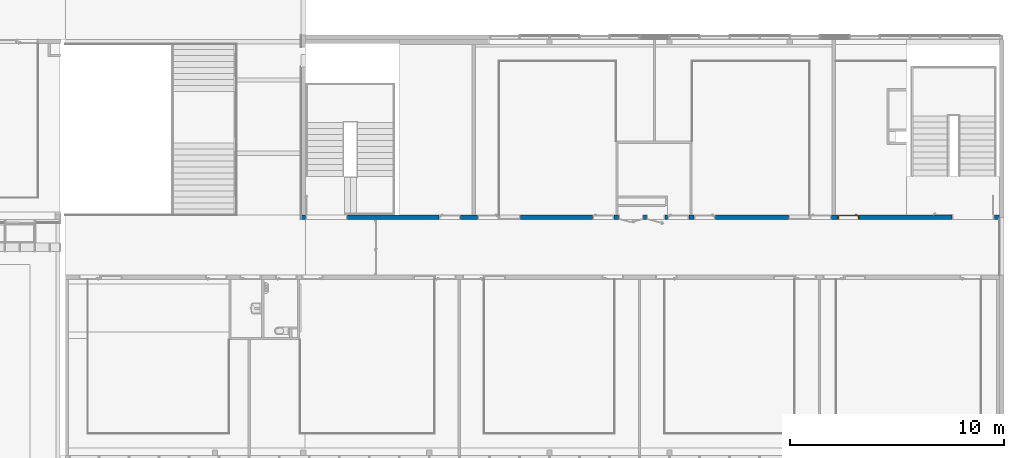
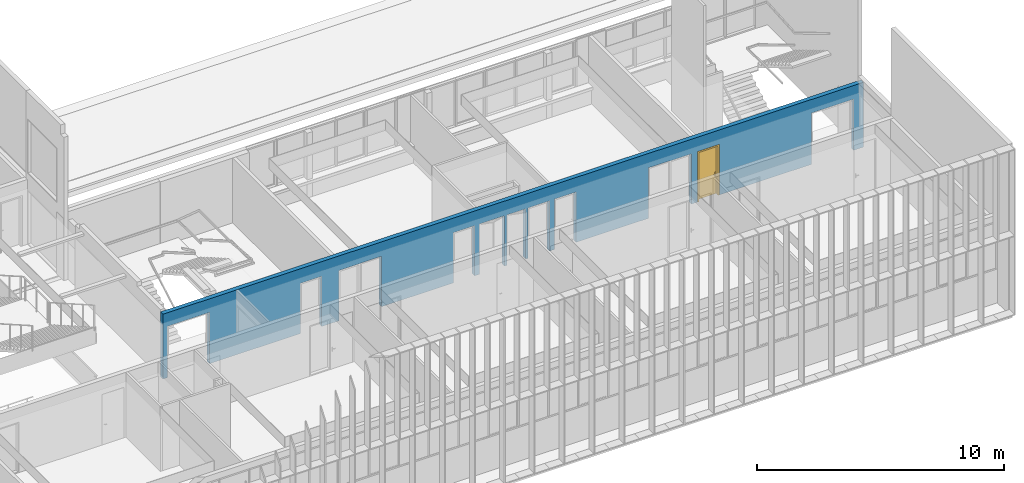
# One storey, part 80 of 106: 1 door, 1 wall, 13 openings.
"""IFC2X3 building model written with IfcOpenShell, lengths in centimetres."""

from ifc_helpers import new_model, entity, si_unit, converted_unit, derived_unit, direction, frame, frame_2d, origin, place, context, subcontext, project, spatial, polyline, rectangle, extrude, clip, bounded_halfspace, faceted_brep, source, transform, mapped, material, material_list, layer, layer_set, layer_usage, type_object, type_shapes, element, fill, save


model = new_model("IFC2X3")

# Units and contexts
model_context = context("Model", 3, precision=0.001, world=origin(), true_north=direction((6.12303176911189e-17, 1.0)))
body_context = subcontext(model_context, "Body", "Model", "MODEL_VIEW")
ifc_project = project(units=[si_unit("LENGTHUNIT", "METRE", prefix="CENTI"), si_unit("AREAUNIT", "SQUARE_METRE"), si_unit("VOLUMEUNIT", "CUBIC_METRE"), converted_unit("PLANEANGLEUNIT", "DEGREE", entity("IfcRatioMeasure", 0.0174532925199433), si_unit("PLANEANGLEUNIT", "RADIAN"), dimensions=[0, 0, 0, 0, 0, 0, 0]), si_unit("MASSUNIT", "GRAM", prefix="KILO"), derived_unit("MASSDENSITYUNIT", [(si_unit("MASSUNIT", "GRAM", prefix="KILO"), 1), (si_unit("LENGTHUNIT", "METRE"), -3)]), si_unit("TIMEUNIT", "SECOND"), si_unit("FREQUENCYUNIT", "HERTZ"), si_unit("THERMODYNAMICTEMPERATUREUNIT", "DEGREE_CELSIUS"), derived_unit("THERMALTRANSMITTANCEUNIT", [(si_unit("MASSUNIT", "GRAM", prefix="KILO"), 1), (si_unit("THERMODYNAMICTEMPERATUREUNIT", "KELVIN"), -1), (si_unit("TIMEUNIT", "SECOND"), -3)]), derived_unit("VOLUMETRICFLOWRATEUNIT", [(si_unit("LENGTHUNIT", "METRE"), 3), (si_unit("TIMEUNIT", "SECOND"), -1)]), si_unit("ELECTRICCURRENTUNIT", "AMPERE"), si_unit("ELECTRICVOLTAGEUNIT", "VOLT"), si_unit("POWERUNIT", "WATT"), si_unit("FORCEUNIT", "NEWTON", prefix="KILO"), si_unit("ILLUMINANCEUNIT", "LUX"), si_unit("LUMINOUSFLUXUNIT", "LUMEN"), si_unit("LUMINOUSINTENSITYUNIT", "CANDELA"), derived_unit("USERDEFINED", [(si_unit("MASSUNIT", "GRAM", prefix="KILO"), -1), (si_unit("LENGTHUNIT", "METRE"), -2), (si_unit("TIMEUNIT", "SECOND"), 3), (si_unit("LUMINOUSFLUXUNIT", "LUMEN"), 1)]), derived_unit("LINEARVELOCITYUNIT", [(si_unit("LENGTHUNIT", "METRE"), 1), (si_unit("TIMEUNIT", "SECOND"), -1)]), si_unit("PRESSUREUNIT", "PASCAL"), derived_unit("USERDEFINED", [(si_unit("LENGTHUNIT", "METRE"), -2), (si_unit("MASSUNIT", "GRAM", prefix="KILO"), 1), (si_unit("TIMEUNIT", "SECOND"), -2)])], contexts=[model_context])

# Site, building, storey
site_placement = place(None, frame((-2781.94577612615, 7442.24238424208, 0.0)))
site = spatial("IfcSite", under=ifc_project, at=site_placement, Name="Default", CompositionType="ELEMENT")
building_placement = place(site_placement, origin())
building = spatial("IfcBuilding", under=site, at=building_placement, CompositionType="ELEMENT")
storey_placement = place(building_placement, frame((0.0, 0.0, 422.0)))
storey = spatial("IfcBuildingStorey", under=building, at=storey_placement, Name="Toiture - Cuisine", CompositionType="ELEMENT", Elevation=421.999999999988)

# Wall, openings, door
ifc_material_1 = material(Name="01 - Maçonnerie")
ifc_layer = layer(ifc_material_1, 20.0)
ifc_layer_set = layer_set([ifc_layer], Name="Mur de base:04 - Structure - béton - 20cm")
ifc_layer_usage = layer_usage(ifc_layer_set, "AXIS2", "NEGATIVE", 10.0)
wall_type = type_object("IfcWallType", Name="Mur de base:04 - Structure - béton - 20cm", PredefinedType="STANDARD", material=ifc_layer_set)
wall_placement = place(building_placement, frame((-3667.99987968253, -1920.07903364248, 422.0)))
wall = element("IfcWallStandardCase", 1, at=wall_placement, inside=storey, type_object=wall_type, material=ifc_layer_usage, Name="Mur de base:04 - Structure - béton - 20cm", ObjectType="Mur de base:04 - Structure - béton - 20cm", context=body_context, shape_type="Clipping", body=[
    clip(clip(extrude(rectangle(XDim=3277.99999684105, YDim=19.9999999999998, at=frame_2d((1638.99999842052, 6.21724893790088e-14), x_axis=(-1.0, 0.0))), origin(), (0.0, 0.0, 1.0), 321.0), bounded_halfspace(frame((0.0, -10.0, 321.0), z_axis=(0.0, 0.0, -1.0), x_axis=(0.0, 1.0, 0.0)), True, frame((0.0, -10.0, 321.0)), polyline([(0.0, 0.0), (20.0, 0.0), (20.0, 20.0), (0.0, 20.0), (0.0, 0.0)]))), bounded_halfspace(frame((458.699996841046, -10.0, 321.0), z_axis=(0.0, 0.0, -1.0), x_axis=(0.0, 1.0, 0.0)), True, frame((458.699996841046, -10.0, 321.0)), polyline([(0.0, 0.0), (2797.3, 0.0), (2799.29999999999, 0.0), (2799.29999999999, 10.0), (2799.29999999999, 20.0), (2034.0, 20.0), (2018.0, 20.0), (1914.0, 20.0), (1912.0, 20.0), (1363.8, 20.0), (1353.8, 20.0), (1249.8, 20.0), (1239.8, 20.0), (1149.8, 20.0), (1139.8, 20.0), (1019.8, 20.0), (1009.8, 20.0), (466.0, 20.0), (464.0, 20.0), (0.0, 20.0), (0.0, 0.0)]))),
])
opening_1_placement = place(wall_placement, frame((2502.69999684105, -10.0, 0.0)))
opening_1 = element("IfcOpeningElement", 2, at=opening_1_placement, cuts=wall, Name="Int. Simple:PP simple (0.93m x 2.50m):1", ObjectType="Opening", context=body_context, shape_type="SweptSolid", body=[
    extrude(rectangle(XDim=248.500000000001, YDim=99.9999999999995, at=frame_2d((124.250000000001, 49.9999999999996), x_axis=(1.0, 0.0))), frame((0.0, 0.0, 0.0), z_axis=(0.0, 1.0, 0.0), x_axis=(0.0, 0.0, 1.0)), (0.0, 0.0, 1.0), 20.0),
])
opening_2_placement = place(wall_placement, frame((2372.69999684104, -10.0, 0.0)))
element("IfcOpeningElement", 3, at=opening_2_placement, cuts=wall, Name="Int. Simple:PV (0.93m x 2.50m):1", ObjectType="Opening", context=body_context, shape_type="SweptSolid", body=[
    extrude(rectangle(XDim=248.500000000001, YDim=99.9999999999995, at=frame_2d((124.250000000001, 49.9999999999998), x_axis=(1.0, 0.0))), frame((0.0, 0.0, 0.0), z_axis=(0.0, 1.0, 0.0), x_axis=(0.0, 0.0, 1.0)), (0.0, 0.0, 1.0), 20.0),
])
opening_3_placement = place(wall_placement, frame((1832.49999684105, -10.0, 0.0)))
element("IfcOpeningElement", 4, at=opening_3_placement, cuts=wall, Name="Int. Simple:PV (0.93m x 2.50m):1", ObjectType="Opening", context=body_context, shape_type="SweptSolid", body=[
    extrude(rectangle(XDim=248.500000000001, YDim=99.9999999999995, at=frame_2d((124.250000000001, 49.9999999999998), x_axis=(1.0, 0.0))), frame((0.0, 0.0, 0.0), z_axis=(0.0, 1.0, 0.0), x_axis=(0.0, 0.0, 1.0)), (0.0, 0.0, 1.0), 20.0),
])
opening_4_placement = place(wall_placement, frame((1708.49999684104, -10.0, 0.0)))
element("IfcOpeningElement", 5, at=opening_4_placement, cuts=wall, Name="Int. Simple:PP simple (0.93m x 2.50m):1", ObjectType="Opening", context=body_context, shape_type="SweptSolid", body=[
    extrude(rectangle(XDim=248.500000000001, YDim=99.9999999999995, at=frame_2d((124.250000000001, 49.9999999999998), x_axis=(1.0, 0.0))), frame((0.0, 0.0, 0.0), z_axis=(0.0, 1.0, 0.0), x_axis=(0.0, 0.0, 1.0)), (0.0, 0.0, 1.0), 20.0),
])
opening_5_placement = place(wall_placement, frame((1358.49999684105, -10.0, 0.0)))
element("IfcOpeningElement", 6, at=opening_5_placement, cuts=wall, Name="Int. Simple:PV (0.93m x 2.50m):1", ObjectType="Opening", context=body_context, shape_type="SweptSolid", body=[
    extrude(rectangle(XDim=248.500000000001, YDim=99.9999999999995, at=frame_2d((124.250000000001, 49.9999999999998), x_axis=(1.0, 0.0))), frame((0.0, 0.0, 0.0), z_axis=(0.0, 1.0, 0.0), x_axis=(0.0, 0.0, 1.0)), (0.0, 0.0, 1.0), 20.0),
])
opening_6_placement = place(wall_placement, frame((822.699996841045, -10.0, 0.0)))
element("IfcOpeningElement", 7, at=opening_6_placement, cuts=wall, Name="Int. Simple:PV (0.93m x 2.50m):1", ObjectType="Opening", context=body_context, shape_type="SweptSolid", body=[
    extrude(rectangle(XDim=248.500000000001, YDim=99.9999999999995, at=frame_2d((124.250000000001, 49.9999999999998), x_axis=(1.0, 0.0))), frame((0.0, 0.0, 0.0), z_axis=(0.0, 1.0, 0.0), x_axis=(0.0, 0.0, 1.0)), (0.0, 0.0, 1.0), 20.0),
])
opening_7_placement = place(wall_placement, frame((642.699996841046, -10.0, 0.0)))
element("IfcOpeningElement", 8, at=opening_7_placement, cuts=wall, Name="Int. Simple:PP simple (0.93m x 2.50m):1", ObjectType="Opening", context=body_context, shape_type="SweptSolid", body=[
    extrude(rectangle(XDim=248.500000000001, YDim=99.9999999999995, at=frame_2d((124.250000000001, 49.9999999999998), x_axis=(1.0, 0.0))), frame((0.0, 0.0, 0.0), z_axis=(0.0, 1.0, 0.0), x_axis=(0.0, 0.0, 1.0)), (0.0, 0.0, 1.0), 20.0),
])
opening_8_placement = place(wall_placement, frame((2272.69999684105, -10.0, 0.0)))
element("IfcOpeningElement", 9, at=opening_8_placement, cuts=wall, Name="châssis intérieur vitré:châssis intérieur vitré (h=270) R+1:1", ObjectType="Opening", context=body_context, shape_type="SweptSolid", body=[
    extrude(rectangle(XDim=250.0, YDim=99.9999999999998, at=frame_2d((125.0, 49.9999999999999), x_axis=(1.0, 0.0))), frame((0.0, 0.0, 0.0), z_axis=(0.0, 1.0, 0.0), x_axis=(0.0, 0.0, 1.0)), (0.0, 0.0, 1.0), 20.0),
])
opening_9_placement = place(wall_placement, frame((922.699996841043, -10.0, 0.0)))
element("IfcOpeningElement", 10, at=opening_9_placement, cuts=wall, Name="châssis intérieur vitré:châssis intérieur vitré (h=270) R+1:1", ObjectType="Opening", context=body_context, shape_type="SweptSolid", body=[
    extrude(rectangle(XDim=250.0, YDim=99.9999999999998, at=frame_2d((125.0, 49.9999999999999), x_axis=(1.0, 0.0))), frame((0.0, 0.0, 0.0), z_axis=(0.0, 1.0, 0.0), x_axis=(0.0, 0.0, 1.0)), (0.0, 0.0, 1.0), 20.0),
])
opening_10_placement = place(wall_placement, frame((1697.0, 10.0, 0.0)))
element("IfcOpeningElement", 11, at=opening_10_placement, cuts=wall, Name="Int. Simple:PP Placard (0.80m x 2.50m):1", ObjectType="Opening", context=body_context, shape_type="SweptSolid", body=[
    extrude(rectangle(XDim=248.500000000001, YDim=86.9999999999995, at=frame_2d((124.250000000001, 43.4999999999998), x_axis=(1.0, 0.0))), frame((0.0, 0.0, 0.0), z_axis=(0.0, -1.0, 0.0), x_axis=(0.0, 0.0, 1.0)), (0.0, 0.0, 1.0), 20.0),
])
opening_11_placement = place(wall_placement, frame((1597.0, 10.0, 0.0)))
element("IfcOpeningElement", 12, at=opening_11_placement, cuts=wall, Name="Int. Double:PP Placard (1.10m x 2.50m):1", ObjectType="Opening", context=body_context, shape_type="SweptSolid", body=[
    extrude(rectangle(XDim=248.500000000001, YDim=117.0, at=frame_2d((124.250000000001, 58.5000000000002), x_axis=(1.0, 0.0))), frame((0.0, 0.0, 0.0), z_axis=(0.0, -1.0, 0.0), x_axis=(0.0, 0.0, 1.0)), (0.0, 0.0, 1.0), 20.0),
])
opening_12_placement = place(wall_placement, frame((3035.69999684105, -10.0, 0.0)))
element("IfcOpeningElement", 13, at=opening_12_placement, cuts=wall, Name="Int. Double:PP (1.90m x 2.50m):1", ObjectType="Opening", context=body_context, shape_type="SweptSolid", body=[
    extrude(rectangle(XDim=253.500000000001, YDim=197.0, at=frame_2d((126.750000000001, 98.5000000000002), x_axis=(1.0, 0.0))), frame((0.0, 0.0, 0.0), z_axis=(0.0, 1.0, 0.0), x_axis=(0.0, 0.0, 1.0)), (0.0, 0.0, 1.0), 20.0),
])
opening_13_placement = place(wall_placement, frame((20.0, -10.0, 0.0)))
element("IfcOpeningElement", 14, at=opening_13_placement, cuts=wall, Name="Int. Double:PP (1.90m x 2.50m):1", ObjectType="Opening", context=body_context, shape_type="SweptSolid", body=[
    extrude(rectangle(XDim=253.500000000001, YDim=197.0, at=frame_2d((126.750000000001, 98.5), x_axis=(1.0, 0.0))), frame((0.0, 0.0, 0.0), z_axis=(0.0, 1.0, 0.0), x_axis=(0.0, 0.0, 1.0)), (0.0, 0.0, 1.0), 20.0),
])
ifc_material_2 = material(Name="Finition Peinture - Blanc satiné")
ifc_material_3 = material(Name="Bois - Panneau de porte")
ifc_material_4 = material(Name="Bois - Cadre de porte")
ifc_material_list_1 = material_list([ifc_material_2, ifc_material_3, ifc_material_4])
ifc_material_list_2 = material_list([ifc_material_2, ifc_material_3, ifc_material_4])
door_style = type_object("IfcDoorStyle", Name="PP simple (0.93m x 2.50m)", ConstructionType="NOTDEFINED", OperationType="SINGLE_SWING_LEFT", ParameterTakesPrecedence=False, Sizeable=False, material=ifc_material_list_2)
shared_shape = source(origin(), body_context, "Body", "Brep", [
    faceted_brep([(10.5352761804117, -0.500000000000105, 86.6003983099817), (11.5000000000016, -0.500000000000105, 87.0), (11.5000000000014, -0.500000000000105, 108.0), (10.5352761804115, -0.500000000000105, 108.399601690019), (9.50000000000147, -0.500000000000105, 108.535898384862), (8.46472381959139, -0.500000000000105, 108.399601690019), (7.50000000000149, -0.500000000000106, 108.0), (7.50000000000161, -0.500000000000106, 87.0), (8.46472381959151, -0.500000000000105, 86.6003983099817), (9.50000000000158, -0.500000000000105, 86.464101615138), (10.5352761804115, 0.0, 108.399601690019), (11.5000000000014, 0.0, 108.0), (11.5000000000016, 0.0, 87.0), (10.5352761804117, 0.0, 86.6003983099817), (9.50000000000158, 0.0, 86.464101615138), (8.46472381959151, 0.0, 86.6003983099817), (7.50000000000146, 0.0, 87.0), (7.50000000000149, 0.0, 108.0), (8.46472381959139, 0.0, 108.399601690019), (9.50000000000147, 0.0, 108.535898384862)], [[[0, 1, 2, 3, 4, 5, 6, 7, 8, 9]], [[10, 11, 12, 13, 14, 15, 16, 17, 18, 19]], [[16, 15, 8, 7]], [[8, 15, 14, 9]], [[14, 13, 0, 9]], [[13, 12, 1, 0]], [[2, 1, 12, 11]], [[11, 10, 3, 2]], [[3, 10, 19, 4]], [[19, 18, 5, 4]], [[18, 17, 6, 5]], [[7, 6, 17, 16]]]),
    faceted_brep([(10.5352761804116, 4.0, 86.6003983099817), (11.5000000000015, 4.0, 87.0), (11.5000000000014, 4.0, 108.0), (10.5352761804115, 4.0, 108.399601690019), (9.50000000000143, 4.0, 108.535898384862), (8.46472381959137, 4.0, 108.399601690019), (7.50000000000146, 4.0, 108.0), (7.50000000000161, 4.0, 87.0), (8.46472381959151, 4.0, 86.6003983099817), (9.50000000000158, 4.0, 86.464101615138), (10.5352761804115, 4.49999999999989, 108.399601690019), (11.5000000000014, 4.49999999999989, 108.0), (11.5000000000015, 4.49999999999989, 87.0), (10.5352761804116, 4.49999999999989, 86.6003983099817), (9.50000000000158, 4.49999999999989, 86.464101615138), (8.46472381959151, 4.49999999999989, 86.6003983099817), (7.50000000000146, 4.49999999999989, 87.0), (7.50000000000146, 4.49999999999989, 108.0), (8.46472381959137, 4.49999999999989, 108.399601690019), (9.50000000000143, 4.49999999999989, 108.535898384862)], [[[0, 1, 2, 3, 4, 5, 6, 7, 8, 9]], [[10, 11, 12, 13, 14, 15, 16, 17, 18, 19]], [[11, 10, 3, 2]], [[3, 10, 19, 4]], [[19, 18, 5, 4]], [[18, 17, 6, 5]], [[7, 6, 17, 16]], [[16, 15, 8, 7]], [[8, 15, 14, 9]], [[14, 13, 0, 9]], [[13, 12, 1, 0]], [[2, 1, 12, 11]]]),
    faceted_brep([(9.29747013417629, -0.500000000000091, 100.778044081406), (9.70252986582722, -0.500000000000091, 100.778044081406), (10.1000000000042, -0.500000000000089, 100.699999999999), (10.1000000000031, -0.500000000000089, 99.3000000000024), (9.7025298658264, -0.500000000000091, 99.2219559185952), (9.29747013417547, -0.500000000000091, 99.221955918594), (8.8999999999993, -0.500000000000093, 99.2999999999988), (8.89999999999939, -0.500000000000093, 100.7), (8.89999999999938, -3.26509507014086, 100.7), (9.29747013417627, -3.10045754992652, 100.778044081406), (10.9023585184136, -4.70534593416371, 100.778044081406), (11.0701397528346, -4.30028620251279, 100.778044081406), (9.7025298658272, -2.93267631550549, 100.778044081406), (10.1000000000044, -2.76803879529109, 100.7), (10.1000000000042, -2.76803879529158, 99.3000000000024), (9.7025298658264, -2.93267631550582, 99.2219559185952), (11.0701397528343, -4.30028620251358, 99.2219559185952), (10.9023585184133, -4.70534593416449, 99.221955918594), (9.29747013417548, -3.10045754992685, 99.221955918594), (8.89999999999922, -3.26509507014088, 99.2999999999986), (10.7377209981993, -5.10281606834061, 100.7), (11.2347772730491, -3.90281606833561, 100.7), (11.2347772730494, -3.90281606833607, 99.3000000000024), (10.7377209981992, -5.10281606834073, 99.2999999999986), (19.5018640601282, -5.1028160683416, 99.2999999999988), (19.5018640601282, -4.70534593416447, 99.221955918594), (19.5018640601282, -4.30028620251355, 99.2219559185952), (19.5018640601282, -3.90281606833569, 99.3000000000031), (19.5018640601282, -3.90281606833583, 100.7), (19.5018640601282, -4.30028620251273, 100.778044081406), (19.5018640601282, -4.70534593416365, 100.778044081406), (19.5018640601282, -5.10281606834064, 100.699999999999), (14.7307697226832, -5.10281606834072, 100.7), (15.2860019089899, -4.5028160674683, 100.78786867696), (15.3683206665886, -3.9028160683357, 100.7), (15.3683206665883, -3.90281606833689, 99.3000000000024), (15.2860018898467, -4.50281607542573, 99.2121313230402), (14.7307700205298, -5.10281606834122, 99.2999999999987)], [[[0, 1, 2, 3, 4, 5, 6, 7]], [[8, 9, 0, 7]], [[9, 10, 11, 12, 1, 0]], [[12, 13, 2, 1]], [[3, 2, 13, 14]], [[14, 15, 4, 3]], [[15, 16, 17, 18, 5, 4]], [[18, 19, 6, 5]], [[7, 6, 19, 8]], [[20, 10, 9, 8]], [[11, 21, 13, 12]], [[14, 13, 21, 22]], [[22, 16, 15, 14]], [[17, 23, 19, 18]], [[8, 19, 23, 20]], [[24, 25, 26, 27, 28, 29, 30, 31]], [[32, 30, 33]], [[31, 30, 32]], [[10, 20, 32]], [[33, 34, 11]], [[21, 11, 34]], [[34, 29, 28]], [[30, 29, 33]], [[29, 34, 33]], [[10, 32, 33]], [[10, 33, 11]], [[22, 21, 34, 28, 27, 35]], [[35, 26, 36]], [[37, 36, 25]], [[22, 35, 16]], [[35, 27, 26]], [[24, 37, 25]], [[23, 17, 37]], [[37, 17, 36]], [[17, 16, 36]], [[16, 35, 36]], [[25, 36, 26]], [[20, 23, 37, 24, 31, 32]]]),
    faceted_brep([(9.29747013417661, 4.49999999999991, 100.778044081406), (8.89999999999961, 4.4999999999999, 100.7), (8.89999999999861, 4.4999999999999, 99.2999999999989), (9.29747013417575, 4.49999999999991, 99.221955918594), (9.70252986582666, 4.49999999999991, 99.2219559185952), (10.1000000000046, 4.49999999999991, 99.3000000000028), (10.1000000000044, 4.49999999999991, 100.7), (9.70252986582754, 4.49999999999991, 100.778044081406), (10.1000000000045, 6.7485204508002, 99.3000000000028), (10.1000000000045, 6.74852045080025, 100.7), (9.70252986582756, 6.91315797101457, 100.778044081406), (11.083890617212, 8.29451872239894, 100.778044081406), (10.916109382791, 8.69957845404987, 100.778044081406), (9.29747013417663, 7.0809392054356, 100.778044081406), (8.89999999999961, 7.24557672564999, 100.7), (8.89999999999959, 7.2455767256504, 99.2999999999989), (9.29747013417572, 7.08093920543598, 99.221955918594), (10.9161093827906, 8.69957845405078, 99.221955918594), (11.0838906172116, 8.29451872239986, 99.2219559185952), (9.70252986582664, 6.91315797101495, 99.2219559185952), (11.2485281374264, 7.89704858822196, 99.3000000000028), (11.2485281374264, 7.89704858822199, 100.7), (10.7514718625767, 9.09704858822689, 100.7), (10.7514718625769, 9.0970485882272, 99.2999999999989), (19.5045783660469, 7.89704858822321, 99.3000000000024), (19.5045783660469, 8.29451872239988, 99.2219559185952), (19.5045783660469, 8.6995784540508, 99.221955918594), (19.5045783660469, 9.09704858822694, 99.2999999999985), (19.5045783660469, 9.09704858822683, 100.7), (19.5045783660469, 8.69957845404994, 100.778044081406), (19.5045783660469, 8.29451872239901, 100.778044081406), (19.5045783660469, 7.89704858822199, 100.7), (15.3765520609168, 7.89704858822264, 99.3000000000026), (15.3765532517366, 7.89704858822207, 100.7), (15.294234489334, 8.49704858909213, 100.78786867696), (14.7445205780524, 9.09704858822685, 100.7), (14.7445204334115, 9.09704858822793, 99.2999999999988), (15.2942345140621, 8.49704858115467, 99.2121313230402)], [[[0, 1, 2, 3, 4, 5, 6, 7]], [[6, 5, 8, 9]], [[9, 10, 7, 6]], [[10, 11, 12, 13, 0, 7]], [[13, 14, 1, 0]], [[2, 1, 14, 15]], [[15, 16, 3, 2]], [[16, 17, 18, 19, 4, 3]], [[19, 8, 5, 4]], [[9, 8, 20, 21]], [[21, 11, 10, 9]], [[12, 22, 14, 13]], [[15, 14, 22, 23]], [[23, 17, 16, 15]], [[18, 20, 8, 19]], [[24, 25, 26, 27, 28, 29, 30, 31]], [[21, 20, 32, 24, 31, 33]], [[33, 30, 34]], [[35, 34, 29]], [[21, 33, 11]], [[33, 31, 30]], [[28, 35, 29]], [[22, 12, 35]], [[35, 12, 34]], [[12, 11, 34]], [[11, 33, 34]], [[29, 34, 30]], [[22, 35, 28, 27, 36, 23]], [[36, 26, 37]], [[27, 26, 36]], [[17, 23, 36]], [[37, 32, 18]], [[20, 18, 32]], [[32, 25, 24]], [[26, 25, 37]], [[25, 32, 37]], [[17, 36, 37]], [[17, 37, 18]]]),
    faceted_brep([(3.50000000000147, 4.0, 245.0), (96.5000000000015, 4.0, 245.0), (96.5000000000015, 4.0, 0.0), (3.50000000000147, 4.0, 0.0), (3.50000000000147, 0.0, 245.0), (3.50000000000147, 0.0, 0.0), (96.5000000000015, 0.0, 0.0), (96.5000000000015, 0.0, 245.0)], [[[0, 1, 2, 3]], [[4, 5, 6, 7]], [[1, 0, 4, 7]], [[2, 1, 7, 6]], [[3, 2, 6, 5]], [[0, 3, 5, 4]]]),
    faceted_brep([(0.0, 20.0, 0.0), (-1.50000000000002, 20.0, 0.0), (-1.50000000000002, 20.5000000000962, 0.0), (5.0, 20.5000000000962, 0.0), (5.0, 4.0, 0.0), (3.50000000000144, 4.0, 0.0), (3.50000000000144, -0.500000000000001, 0.0), (-1.50000000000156, -0.500000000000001, 0.0), (-1.50000000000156, 0.0, 0.0), (0.0, 0.0, 0.0), (0.0, 0.0, 248.500000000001), (0.0, 20.0, 248.500000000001), (100.0, 20.0, 248.500000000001), (100.0, 20.0, 0.0), (101.5, 20.0, 0.0), (101.5, 20.0, 250.0), (-1.50000000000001, 20.0, 250.0), (5.0, 20.5000000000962, 243.5), (5.0, 4.0, 243.5), (95.0, 4.0, 243.5), (95.0, 4.0, 0.0), (96.499999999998, 4.0, 0.0), (96.499999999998, 4.0, 245.0), (3.50000000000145, 4.0, 245.0), (100.0, 0.0, 248.500000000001), (100.0, 0.0, 0.0), (101.500000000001, 0.0, 0.0), (101.500000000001, -0.500000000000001, 0.0), (96.499999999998, -0.500000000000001, 0.0), (95.0, 20.5000000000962, 0.0), (101.5, 20.5000000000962, 0.0), (95.0, 20.5000000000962, 243.5), (3.50000000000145, -0.500000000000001, 245.0), (96.499999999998, -0.500000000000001, 245.0), (101.500000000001, -0.500000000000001, 250.0), (-1.50000000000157, -0.500000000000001, 250.0), (-1.50000000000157, 0.0, 250.0), (101.500000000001, 0.0, 250.0), (-1.50000000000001, 20.5000000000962, 250.0), (101.5, 20.5000000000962, 250.0)], [[[0, 1, 2, 3, 4, 5, 6, 7, 8, 9]], [[0, 9, 10, 11]], [[1, 0, 11, 12, 13, 14, 15, 16]], [[3, 17, 18, 4]], [[5, 4, 18, 19, 20, 21, 22, 23]], [[12, 24, 25, 13]], [[13, 25, 26, 27, 28, 21, 20, 29, 30, 14]], [[19, 31, 29, 20]], [[11, 10, 24, 12]], [[18, 17, 31, 19]], [[5, 23, 32, 6]], [[7, 6, 32, 33, 28, 27, 34, 35]], [[8, 7, 35, 36]], [[9, 8, 36, 37, 26, 25, 24, 10]], [[2, 1, 16, 38]], [[3, 2, 38, 39, 30, 29, 31, 17]], [[33, 22, 21, 28]], [[37, 34, 27, 26]], [[39, 15, 14, 30]], [[32, 23, 22, 33]], [[36, 35, 34, 37]], [[38, 16, 15, 39]]]),
])
type_shapes(door_style, [shared_shape])
door_placement = place(opening_1_placement, frame((100.0, 20.0, 0.0), z_axis=(0.0, 0.0, 1.0), x_axis=(-1.0, 0.0, 0.0)))
door = element("IfcDoor", 15, at=door_placement, inside=storey, type_object=door_style, material=ifc_material_list_1, Name="Int. Simple:PP simple (0.93m x 2.50m)", ObjectType="Int. Simple:PP simple (0.93m x 2.50m)", OverallHeight=248.500000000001, OverallWidth=99.9999999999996, context=body_context, shape_type="MappedRepresentation", body=[
    mapped(shared_shape, transform((0.0, 0.0, 0.0), scale=1.0)),
])
fill(opening_1, door)

save(model, "model.ifc")
